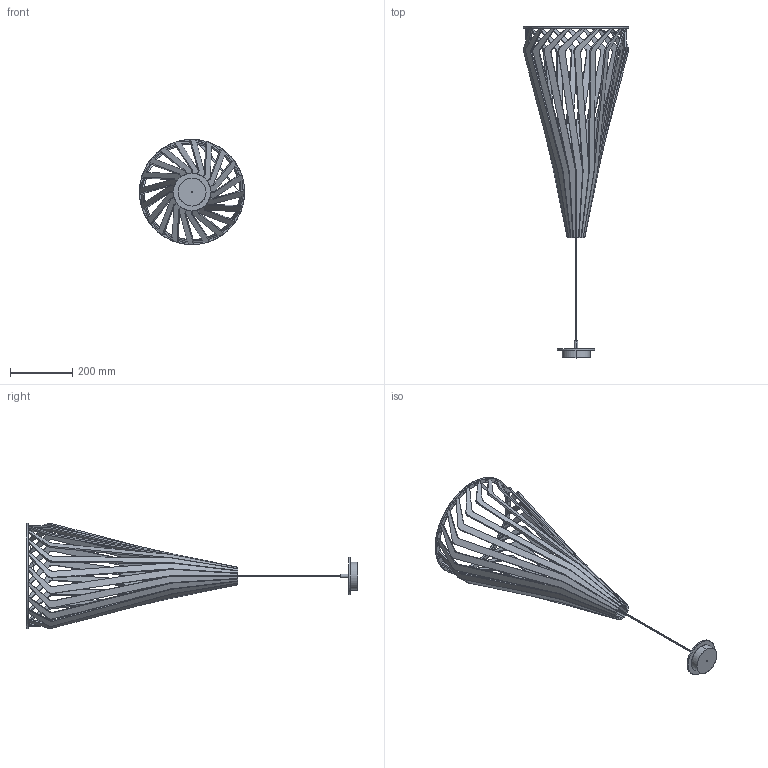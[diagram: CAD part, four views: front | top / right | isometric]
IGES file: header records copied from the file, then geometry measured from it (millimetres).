
Start section: SolidWorks IGES file using analytic representation for surfaces
Global section: file name: E:\....SOLID WORKS\drewno sklejka\BIO z這瞠nia\BIO L.IGS,1; native system: 5HSolidWorks 2016; preprocessor: SolidWorks 2016; author: ㄆkasz,; organization: 11; date: 160727.104916; units: millimetre
Bounding box: 338.03 x 1066.53 x 338.1 mm (x, y, z)
Surface area: 803984 mm2 (no closed solid volume)
Topology: 0 solids, 0 shells, 675 faces, 7182 edges, 7182 vertices
Faces by surface type: bspline 384, revolution 291
